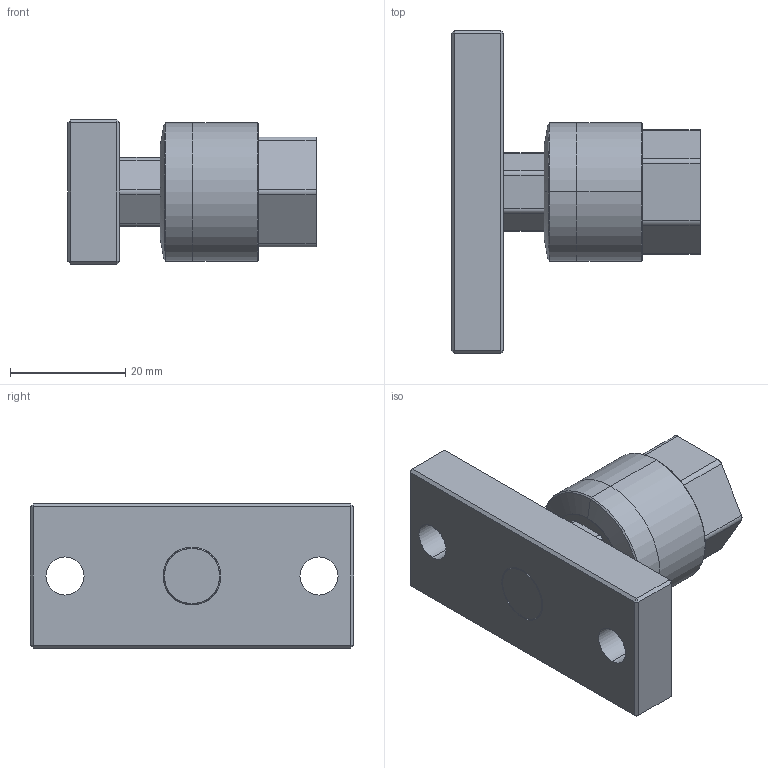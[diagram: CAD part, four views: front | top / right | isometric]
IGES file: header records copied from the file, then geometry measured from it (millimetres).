
Start section: SolidWorks IGES file using analytic representation for surfaces
Global section: file name: C:\Users\Toshiba\Desktop\FCM10-1.5-F.IGS; native system: SolidWorks 2014; preprocessor: SolidWorks 2014; author: Toshiba; date: 160414.095323; units: millimetre
Bounding box: 43 x 56 x 25 mm (x, y, z)
Surface area: 8248.7 mm2 (no closed solid volume)
Topology: 0 solids, 0 shells, 79 faces, 760 edges, 758 vertices
Faces by surface type: bspline 43, revolution 36
